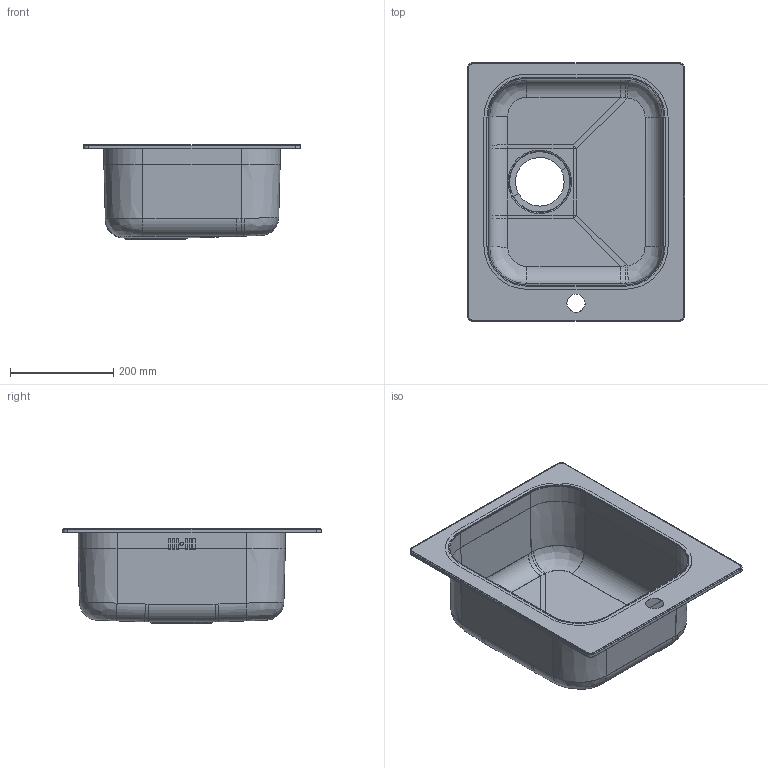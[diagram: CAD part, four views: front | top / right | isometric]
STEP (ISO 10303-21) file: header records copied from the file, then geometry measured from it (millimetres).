
FILE_DESCRIPTION(('CATIA V5 STEP Exchange'),'2;1');
FILE_NAME('\\sr02\Apell\Disegni\DISEGNI\LAVELLI\Torino\STP\TO42IBC.stp','2016-07-15T11:08:00+00:00',('none'),('none'),'CATIA Version 5-6 Release 2014','CATIA V5 STEP AP203','none');
FILE_SCHEMA(('CONFIG_CONTROL_DESIGN'));
Length unit declared in the file: millimetre
Products named in the file (1): Lavello
Assembly tree (2 placements, depth 2):
  Lavello
    #57
    #1598
Bounding box: 420 x 500 x 183.21 mm (x, y, z)
Volume: 236027 mm3; surface area: 875596 mm2
Topology: 2 solids, 2 shells, 234 faces, 598 edges, 359 vertices
Faces by surface type: cylinder 94, plane 76, torus 24, bspline 20, cone 16, sphere 4
Entity records: 8471 total; most frequent: CARTESIAN_POINT 3163, ORIENTED_EDGE 1192, DIRECTION 870, EDGE_CURVE 596, VERTEX_POINT 356, AXIS2_PLACEMENT_3D 355, VECTOR 313, LINE 313
